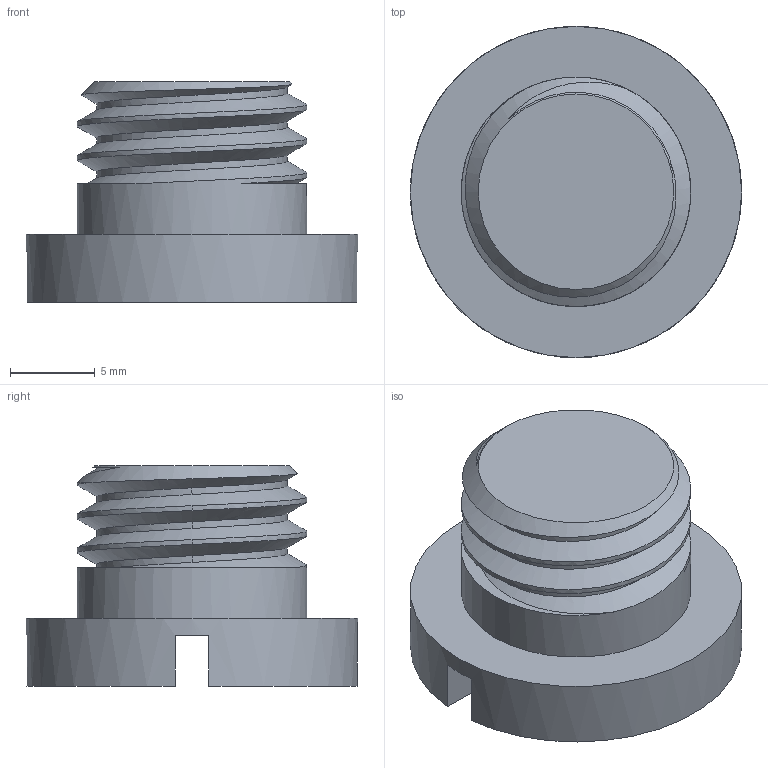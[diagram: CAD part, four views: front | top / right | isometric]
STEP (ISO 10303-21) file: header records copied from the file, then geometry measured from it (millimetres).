
FILE_DESCRIPTION(/* description */ ('','CAx-IF Rec.Pracs.---Representation and Presentation of Product Manufacturing Information (PMI)---4.0---2014-10-13'),/* implementation_level */ '2;1');
FILE_NAME(/* name */ 'Goews Bolt Parametric HD 9mm.step',/* time_stamp */ '2024-12-06T12:08:16-05:00',/* author */ (''),/* organization */ (''),/* preprocessor_version */ 'ST-DEVELOPER v20',/* originating_system */ 'Autodesk Translation Framework v13.20.0.188',/* authorisation */ '');
FILE_SCHEMA (('AP242_MANAGED_MODEL_BASED_3D_ENGINEERING_MIM_LF { 1 0 10303 442 1 1 4 }'));
Length unit declared in the file: millimetre
Products named in the file (2): Goews Bolt Parametric HD; Bolt
Assembly tree (1 placements, depth 2):
  Goews Bolt Parametric HD
    Bolt
Bounding box: 19.52 x 19.52 x 13 mm (x, y, z)
Volume: 2222.8 mm3; surface area: 1443.7 mm2
Topology: 1 solids, 1 shells, 20 faces, 51 edges, 34 vertices
Faces by surface type: plane 9, cylinder 8, bspline 2, cone 1
Full cylindrical faces by diameter (mm): 11.234 x2, 13.522 x2, 19.522 x1
Entity records: 1847 total; most frequent: CARTESIAN_POINT 1341, ORIENTED_EDGE 102, DIRECTION 86, EDGE_CURVE 51, AXIS2_PLACEMENT_3D 35, VERTEX_POINT 34, EDGE_LOOP 21, B_SPLINE_CURVE_WITH_KNOTS 21
